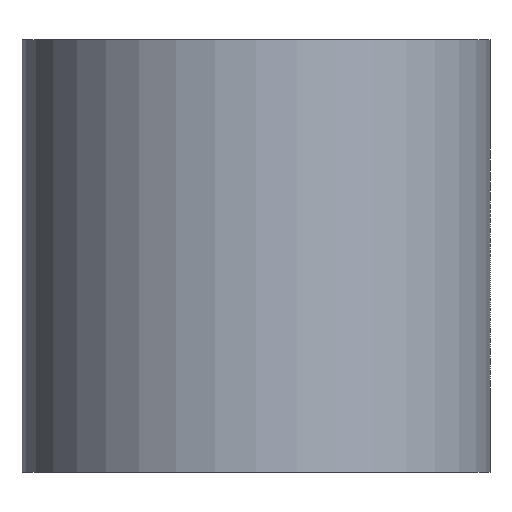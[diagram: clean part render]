
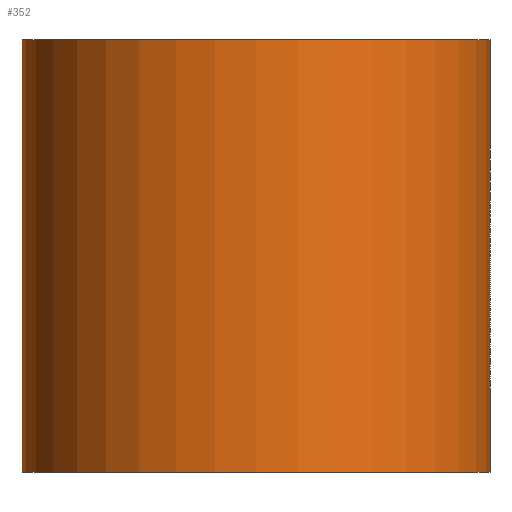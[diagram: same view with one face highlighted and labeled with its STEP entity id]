
A CAD part, front view. The second image highlights one B-rep face of the part: STEP entity #352.
In plain terms, the highlighted cylindrical face has radius 13 mm (diameter 26 mm), a full revolution.
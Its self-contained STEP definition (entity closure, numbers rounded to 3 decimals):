
#242=CARTESIAN_POINT('',(0.0,0.0,0.0));
#243=DIRECTION('',(0.0,0.0,1.0));
#244=DIRECTION('',(-1.0,0.0,0.0));
#245=AXIS2_PLACEMENT_3D('',#242,#243,#244);
#246=CYLINDRICAL_SURFACE('',#245,13.0);
#247=CARTESIAN_POINT('',(13.0,0.,12.));
#248=VERTEX_POINT('',#247);
#249=CARTESIAN_POINT('',(0.0,0.0,12.));
#250=DIRECTION('',(0.0,0.0,-1.0));
#251=DIRECTION('',(-1.0,0.0,0.0));
#252=AXIS2_PLACEMENT_3D('',#249,#250,#251);
#253=CIRCLE('',#252,13.0);
#254=EDGE_CURVE('',#248,#248,#253,.T.);
#255=ORIENTED_EDGE('',*,*,#254,.T.);
#256=EDGE_LOOP('',(#255));
#257=FACE_OUTER_BOUND('',#256,.T.);
#258=CARTESIAN_POINT('',(13.0,0.,-12.));
#259=VERTEX_POINT('',#258);
#260=CARTESIAN_POINT('',(0.0,0.0,-12.));
#261=DIRECTION('',(0.0,0.0,1.0));
#262=DIRECTION('',(-1.0,0.0,0.0));
#263=AXIS2_PLACEMENT_3D('',#260,#261,#262);
#264=CIRCLE('',#263,13.0);
#265=EDGE_CURVE('',#259,#259,#264,.T.);
#266=ORIENTED_EDGE('',*,*,#265,.T.);
#267=EDGE_LOOP('',(#266));
#268=FACE_BOUND('',#267,.T.);
#269=CARTESIAN_POINT('',(-6.,11.533,0.0));
#270=VERTEX_POINT('',#269);
#271=CARTESIAN_POINT('',(-6.,11.533,0.0));
#272=CARTESIAN_POINT('',(-6.,11.533,0.606));
#273=CARTESIAN_POINT('',(-5.905,11.584,1.239));
#274=CARTESIAN_POINT('',(-5.711,11.679,1.84));
#275=CARTESIAN_POINT('',(-5.497,11.783,2.505));
#276=CARTESIAN_POINT('',(-5.162,11.939,3.131));
#277=CARTESIAN_POINT('',(-4.75,12.101,3.666));
#278=CARTESIAN_POINT('',(-4.604,12.159,3.855));
#279=CARTESIAN_POINT('',(-4.449,12.216,4.033));
#280=CARTESIAN_POINT('',(-4.287,12.273,4.198));
#281=CARTESIAN_POINT('',(-4.116,12.332,4.372));
#282=CARTESIAN_POINT('',(-3.934,12.392,4.538));
#283=CARTESIAN_POINT('',(-3.737,12.451,4.694));
#284=CARTESIAN_POINT('',(-3.22,12.606,5.106));
#285=CARTESIAN_POINT('',(-2.612,12.752,5.445));
#286=CARTESIAN_POINT('',(-1.963,12.851,5.67));
#287=CARTESIAN_POINT('',(-1.446,12.93,5.849));
#288=CARTESIAN_POINT('',(-0.902,12.98,5.956));
#289=CARTESIAN_POINT('',(-0.37,12.995,5.989));
#290=CARTESIAN_POINT('',(-0.055,13.004,6.008));
#291=CARTESIAN_POINT('',(0.254,13.001,6.003));
#292=CARTESIAN_POINT('',(0.571,12.987,5.973));
#293=CARTESIAN_POINT('',(1.22,12.959,5.911));
#294=CARTESIAN_POINT('',(1.879,12.878,5.737));
#295=CARTESIAN_POINT('',(2.483,12.761,5.462));
#296=CARTESIAN_POINT('',(3.077,12.645,5.192));
#297=CARTESIAN_POINT('',(3.621,12.495,4.824));
#298=CARTESIAN_POINT('',(4.073,12.345,4.405));
#299=CARTESIAN_POINT('',(4.248,12.288,4.244));
#300=CARTESIAN_POINT('',(4.41,12.23,4.075));
#301=CARTESIAN_POINT('',(4.567,12.171,3.892));
#302=CARTESIAN_POINT('',(4.995,12.011,3.389));
#303=CARTESIAN_POINT('',(5.356,11.849,2.791));
#304=CARTESIAN_POINT('',(5.603,11.731,2.147));
#305=CARTESIAN_POINT('',(5.793,11.64,1.649));
#306=CARTESIAN_POINT('',(5.917,11.575,1.123));
#307=CARTESIAN_POINT('',(5.97,11.548,0.602));
#308=CARTESIAN_POINT('',(6.009,11.528,0.21));
#309=CARTESIAN_POINT('',(6.01,11.527,-0.173));
#310=CARTESIAN_POINT('',(5.973,11.546,-0.564));
#311=CARTESIAN_POINT('',(5.914,11.577,-1.197));
#312=CARTESIAN_POINT('',(5.748,11.664,-1.837));
#313=CARTESIAN_POINT('',(5.487,11.785,-2.428));
#314=CARTESIAN_POINT('',(5.238,11.901,-2.99));
#315=CARTESIAN_POINT('',(4.902,12.047,-3.509));
#316=CARTESIAN_POINT('',(4.516,12.19,-3.95));
#317=CARTESIAN_POINT('',(4.319,12.263,-4.176));
#318=CARTESIAN_POINT('',(4.112,12.335,-4.38));
#319=CARTESIAN_POINT('',(3.882,12.407,-4.575));
#320=CARTESIAN_POINT('',(3.394,12.559,-4.989));
#321=CARTESIAN_POINT('',(2.816,12.707,-5.34));
#322=CARTESIAN_POINT('',(2.192,12.814,-5.585));
#323=CARTESIAN_POINT('',(1.641,12.908,-5.801));
#324=CARTESIAN_POINT('',(1.054,12.97,-5.935));
#325=CARTESIAN_POINT('',(0.478,12.991,-5.981));
#326=CARTESIAN_POINT('',(0.131,13.004,-6.009));
#327=CARTESIAN_POINT('',(-0.207,13.003,-6.007));
#328=CARTESIAN_POINT('',(-0.554,12.988,-5.974));
#329=CARTESIAN_POINT('',(-1.188,12.961,-5.916));
#330=CARTESIAN_POINT('',(-1.832,12.884,-5.75));
#331=CARTESIAN_POINT('',(-2.426,12.772,-5.488));
#332=CARTESIAN_POINT('',(-3.05,12.653,-5.212));
#333=CARTESIAN_POINT('',(-3.62,12.496,-4.828));
#334=CARTESIAN_POINT('',(-4.091,12.34,-4.389));
#335=CARTESIAN_POINT('',(-4.262,12.283,-4.23));
#336=CARTESIAN_POINT('',(-4.421,12.226,-4.063));
#337=CARTESIAN_POINT('',(-4.575,12.168,-3.882));
#338=CARTESIAN_POINT('',(-5.016,12.003,-3.362));
#339=CARTESIAN_POINT('',(-5.385,11.835,-2.74));
#340=CARTESIAN_POINT('',(-5.631,11.717,-2.071));
#341=CARTESIAN_POINT('',(-5.847,11.613,-1.484));
#342=CARTESIAN_POINT('',(-5.969,11.549,-0.861));
#343=CARTESIAN_POINT('',(-5.995,11.535,-0.255));
#344=CARTESIAN_POINT('',(-5.998,11.533,-0.17));
#345=CARTESIAN_POINT('',(-6.,11.533,-0.085));
#346=CARTESIAN_POINT('',(-6.,11.533,0.));
#347=B_SPLINE_CURVE_WITH_KNOTS('',3,(#271,#272,#273,#274,#275,#276,#277,#278,#279,#280,#281,#282,#283,#284,#285,#286,#287,#288,#289,#290,#291,#292,#293,#294,#295,#296,#297,#298,#299,#300,#301,#302,#303,#304,#305,#306,#307,#308,#309,#310,#311,#312,#313,#314,#315,#316,#317,#318,#319,#320,#321,#322,#323,#324,#325,#326,#327,#328,#329,#330,#331,#332,#333,#334,#335,#336,#337,#338,#339,#340,#341,#342,#343,#344,#345,#346),.UNSPECIFIED.,.T.,.U.,(4,3,3,3,3,3,3,3,3,3,3,3,3,3,3,3,3,3,3,3,3,3,3,3,3,4),(0.0,0.182,0.383,0.454,0.529,0.726,0.883,0.976,1.167,1.355,1.427,1.626,1.779,1.895,2.081,2.258,2.349,2.541,2.711,2.813,3.,3.196,3.267,3.473,3.652,3.678),.UNSPECIFIED.);
#348=EDGE_CURVE('',#270,#270,#347,.T.);
#349=ORIENTED_EDGE('',*,*,#348,.F.);
#350=EDGE_LOOP('',(#349));
#351=FACE_BOUND('',#350,.T.);
#352=ADVANCED_FACE('',(#257,#268,#351),#246,.T.);
